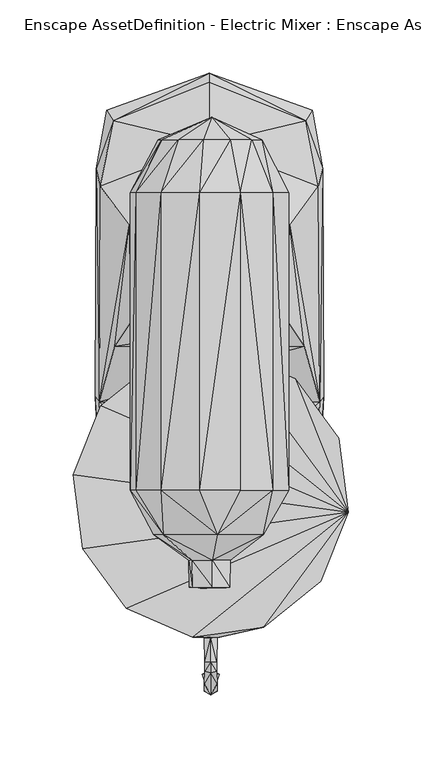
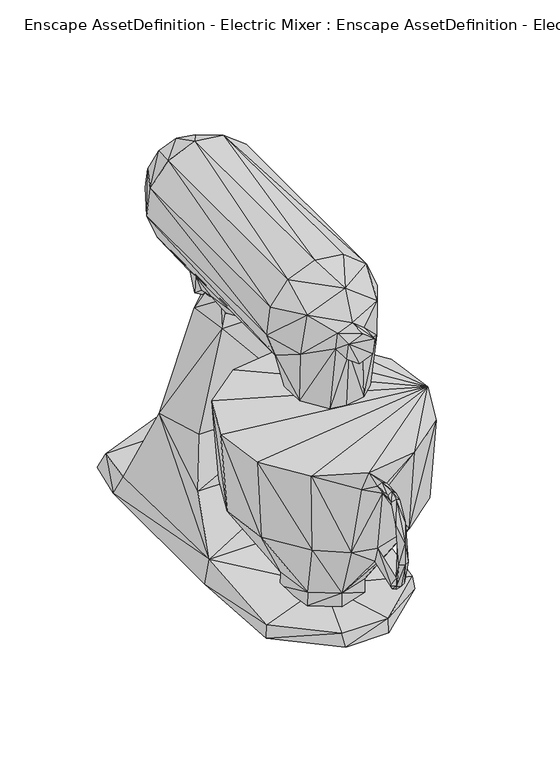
"""IFC4 building model written with IfcOpenShell, lengths in millimetres: geographic element geometry, Enscape AssetDefinition - Electric Mixer : Enscape AssetDefinition - Electric Mixer."""

from ifc_helpers import new_model, si_unit, origin, place, context, project, spatial, faceted_brep, source, transform, mapped, element, save


def enscape_assetdefinition_electric_mixer_enscape_94847bc3(model_context):
    return source(origin(), model_context, "Body", "Brep", [
        faceted_brep([(-33.1558138, -68.3929175, 35.9324776), (5.4905559, -47.8938743, 22.1070927), (-33.4696956, -68.4412047, 22.1070927), (5.4519237, -47.7779806, 35.9324776), (37.8109515, -77.823922, 22.1070927), (-28.3413138, -105.4167449, 35.9324776), (-28.6117345, -105.3394824, 22.1070927), (-4.1142949, -120.8839789, 22.1070927), (37.4729261, -77.8046027, 35.9324776), (23.5702749, -112.2063026, 22.1070927), (-4.0660053, -121.0143641, 35.9324776), (-81.1752379, -118.6867878, 119.6139604), (-53.3119924, -156.3383937, 118.9958528), (-87.177664, -71.1695775, 119.6139604), (-92.7503183, -69.8367804, 199.6061057), (-86.3615647, -120.3576177, 199.6061057), (-23.3722869, -170.4873145, 114.693217), (-56.5908775, -160.8051956, 199.557811), (94.5756733, -95.5269784, 199.6061057), (-74.0379989, -22.7590073, 199.6061057), (-69.5808455, -26.8877894, 119.6139604), (-35.2419317, 8.262394, 199.6061057), (-33.0930352, 2.288939, 119.6139604), (13.2410768, 14.9167348, 199.6061057), (55.002138, -9.7931819, 119.6139604), (83.0006003, -47.8117839, 119.6139604), (58.4210604, -4.5827068, 199.6061057), (88.1917551, -45.0061411, 199.6061057), (89.007847, -95.3289941, 119.6139604), (23.3626291, -112.307705, 35.9324776), (71.4062005, -139.6107823, 119.6139604), (75.8633539, -142.6095814, 199.6061057), (35.6041044, -166.9476777, 116.5378988), (4.3267705, -174.5581478, 100.8726731), (37.0672904, -173.722744, 199.3598044), (0.9126781, -182.125181, 174.833402), (0.9126781, -173.8241464, 112.6891971), (5.4470953, -180.9613854, 182.9026341), (-11.41572, -180.4688275, 199.1135478), (0.9126781, -201.5038878, 174.6354103), (4.8869327, -197.346136, 183.0137074), (0.9126781, -181.019336, 185.5102926), (0.9126781, -197.191596, 186.0125065), (5.0800922, -203.7976682, 179.7831208), (-3.0615765, -197.346136, 183.0137074), (-3.6217389, -180.9613854, 182.9026341), (-3.2499069, -203.7976682, 179.7831208), (0.9126781, -204.806909, 182.1831167), (5.4422664, -212.2145742, 162.0897204), (-3.61691, -212.2145742, 162.0897204), (0.9126781, -219.6512222, 144.9709535), (-16.9304218, -177.1657914, 181.2366396), (-2.5014144, -174.5581478, 100.8726731), (-2.9601678, -204.8407197, 91.0408497), (0.9126781, -205.0483674, 89.4231424), (0.9126781, -174.2684096, 99.2066637), (4.7855242, -204.8407197, 91.0408497), (4.6647997, -211.9972706, 98.197408), (0.9126781, -212.8858119, 97.415112), (-2.8394433, -211.9972706, 98.197408), (0.9126781, -204.7634572, 100.496009), (6.7074602, -205.9610337, 95.5269784), (-4.8772749, -205.9610337, 95.5269784), (-3.6410547, -217.309162, 123.1053099), (0.9126781, -219.6898311, 123.2598424), (5.4664114, -217.309162, 123.1053099), (0.9126781, -207.7381015, 141.7934895)], [[[0, 1, 2]], [[1, 0, 3]], [[3, 4, 1]], [[4, 2, 1]], [[5, 2, 6]], [[2, 5, 0]], [[2, 4, 7]], [[2, 7, 6]], [[4, 3, 8]], [[8, 9, 4]], [[7, 4, 9]], [[10, 6, 7]], [[9, 10, 7]], [[6, 10, 5]], [[11, 0, 5]], [[10, 12, 5]], [[11, 5, 12]], [[0, 11, 13]], [[14, 11, 15]], [[11, 14, 13]], [[12, 15, 11]], [[12, 10, 16]], [[16, 17, 12]], [[15, 12, 17]], [[18, 15, 17]], [[15, 18, 14]], [[19, 13, 14]], [[18, 19, 14]], [[13, 19, 20]], [[20, 0, 13]], [[21, 20, 19]], [[19, 18, 21]], [[20, 3, 0]], [[3, 20, 22]], [[20, 21, 22]], [[23, 22, 21]], [[18, 23, 21]], [[24, 22, 23]], [[3, 22, 24]], [[25, 3, 24]], [[3, 25, 8]], [[26, 25, 24]], [[24, 23, 26]], [[23, 18, 26]], [[25, 26, 27]], [[18, 27, 26]], [[27, 28, 25]], [[28, 8, 25]], [[9, 8, 29]], [[30, 8, 28]], [[8, 30, 29]], [[18, 30, 28]], [[28, 27, 18]], [[31, 32, 30]], [[30, 18, 31]], [[32, 29, 30]], [[10, 9, 29]], [[33, 29, 32]], [[29, 33, 10]], [[32, 31, 34]], [[34, 35, 32]], [[36, 33, 32]], [[32, 35, 36]], [[18, 34, 31]], [[35, 34, 37]], [[34, 38, 37]], [[18, 38, 34]], [[37, 39, 35]], [[39, 37, 40]], [[41, 40, 37]], [[38, 41, 37]], [[40, 41, 42]], [[42, 43, 40]], [[43, 39, 40]], [[41, 44, 42]], [[44, 41, 45]], [[41, 38, 45]], [[46, 42, 44]], [[42, 46, 47]], [[43, 42, 47]], [[48, 43, 47]], [[43, 48, 39]], [[46, 49, 47]], [[50, 47, 49]], [[47, 50, 48]], [[49, 46, 39]], [[39, 46, 44]], [[45, 39, 44]], [[39, 45, 35]], [[45, 51, 35]], [[51, 45, 38]], [[36, 35, 16]], [[16, 35, 51]], [[17, 16, 51]], [[51, 38, 17]], [[38, 18, 17]], [[10, 52, 16]], [[16, 52, 36]], [[53, 36, 52]], [[52, 54, 53]], [[54, 52, 55]], [[10, 55, 52]], [[55, 10, 33]], [[33, 54, 55]], [[36, 56, 33]], [[54, 33, 56]], [[57, 54, 56]], [[54, 57, 58]], [[59, 54, 58]], [[54, 59, 53]], [[56, 36, 60]], [[56, 61, 57]], [[61, 56, 60]], [[36, 53, 60]], [[62, 60, 53]], [[53, 59, 62]], [[60, 62, 59]], [[63, 60, 59]], [[64, 59, 58]], [[59, 64, 63]], [[57, 64, 58]], [[64, 57, 65]], [[64, 50, 63]], [[50, 64, 65]], [[60, 63, 66]], [[49, 63, 50]], [[63, 49, 66]], [[65, 48, 50]], [[57, 66, 65]], [[48, 65, 66]], [[66, 57, 60]], [[66, 39, 48]], [[39, 66, 49]], [[61, 60, 57]]]),
        faceted_brep([(53.0608855, 35.1984724, 122.453399), (-25.777122, 43.3497988, 217.2608823), (-53.0608855, 35.1984724, 122.453399), (25.777122, 43.3497988, 217.2608823), (-54.7800064, 100.2883688, 105.3201631), (-31.3014798, 81.6871151, 217.5747454), (-20.7549781, 46.8942709, 228.5462022), (-18.5529608, 58.6335361, 234.9929065), (-64.674601, 17.7272037, 78.2392099), (64.674601, 17.7272037, 78.2392099), (-75.1534924, -19.9292209, 34.9715091), (75.1534924, -19.9292209, 34.9715091), (54.7800064, 100.2883688, 105.3201631), (0.0, -83.7442577, 20.9143329), (-71.0488558, -110.48235, 20.6487402), (-77.7466595, -16.819356, 7.745692), (-74.2794499, 126.7318875, 30.7509769), (-77.196151, 138.5580599, 7.5090714), (-22.725204, -153.4554809, 20.6922013), (-72.5844726, -112.138696, 8.2334196), (0.0, -4.9835127, 7.8760749), (-65.6548813, 171.3661849, 24.4250074), (-70.0057968, 178.7207276, 7.3690312), (0.0, 155.7396054, 37.8930457), (0.0, 197.7807283, 23.4350655), (0.0, 203.6720961, 8.4169209), (65.6548813, 171.3661849, 24.4250074), (70.0057968, 178.7207276, 7.3690312), (77.196151, 138.5580599, 7.5090714), (74.2794499, 126.7318875, 30.7509769), (77.7466595, -16.819356, 7.745692), (71.0488558, -110.48235, 20.6487402), (72.5844726, -112.138696, 8.2334196), (21.2089028, -157.2993547, 8.1368405), (-21.2089028, -157.2993547, 8.1368405), (22.725204, -153.4554809, 20.6922013), (0.0, 124.124229, 108.2272083), (-14.5690478, 97.7821127, 217.2077596), (14.5690478, 97.7821127, 217.2077596), (31.3014798, 81.6871151, 217.5747454), (-18.5529608, 79.8134655, 234.9929065), (-14.5690478, 92.2819078, 228.5606861), (14.5690478, 92.2819078, 228.5606861), (18.5529608, 79.8134655, 234.9929065), (18.5529608, 58.6335361, 234.9929065), (20.7549781, 46.8942709, 228.5462022)], [[[0, 1, 2]], [[1, 0, 3]], [[1, 4, 2]], [[4, 1, 5]], [[3, 6, 1]], [[7, 5, 1]], [[6, 7, 1]], [[8, 0, 2]], [[4, 8, 2]], [[0, 8, 9]], [[10, 9, 8]], [[4, 10, 8]], [[9, 10, 11]], [[11, 12, 9]], [[0, 9, 12]], [[10, 13, 11]], [[10, 14, 13]], [[15, 14, 10]], [[10, 4, 16]], [[10, 17, 15]], [[17, 10, 16]], [[14, 18, 13]], [[19, 18, 14]], [[14, 15, 19]], [[20, 15, 17]], [[19, 15, 20]], [[17, 21, 22]], [[21, 17, 16]], [[20, 17, 22]], [[4, 23, 16]], [[23, 21, 16]], [[21, 23, 24]], [[21, 25, 22]], [[25, 21, 24]], [[25, 20, 22]], [[26, 25, 24]], [[25, 26, 27]], [[20, 25, 27]], [[23, 26, 24]], [[28, 26, 29]], [[26, 28, 27]], [[26, 23, 29]], [[28, 20, 27]], [[11, 28, 29]], [[28, 11, 30]], [[30, 20, 28]], [[12, 11, 29]], [[23, 12, 29]], [[31, 11, 13]], [[31, 30, 11]], [[30, 31, 32]], [[32, 20, 30]], [[33, 20, 32]], [[34, 20, 33]], [[19, 20, 34]], [[35, 32, 31]], [[32, 35, 33]], [[35, 31, 13]], [[18, 35, 13]], [[35, 34, 33]], [[34, 35, 18]], [[18, 19, 34]], [[23, 4, 36]], [[12, 23, 36]], [[5, 36, 4]], [[36, 37, 38]], [[36, 5, 37]], [[36, 39, 12]], [[39, 36, 38]], [[40, 37, 5]], [[5, 7, 40]], [[41, 38, 37]], [[37, 40, 41]], [[38, 41, 42]], [[43, 38, 42]], [[38, 43, 39]], [[40, 42, 41]], [[42, 40, 43]], [[7, 43, 40]], [[43, 7, 44]], [[6, 44, 7]], [[44, 39, 43]], [[44, 6, 45]], [[39, 44, 3]], [[3, 44, 45]], [[6, 3, 45]], [[3, 12, 39]], [[12, 3, 0]]]),
        faceted_brep([(-13.9654251, -128.2481849, 296.6493666), (-33.213757, -100.8098945, 232.6218784), (-16.8338418, -123.2067198, 232.6218784), (-38.124837, -110.7624322, 288.5560095), (-45.4938672, -80.1370069, 271.6062665), (-33.802893, -75.1196891, 232.6218784), (35.9662808, -90.8573568, 232.6218784), (-1.8205274, -128.8614571, 288.1068885), (-2.4144927, -125.848189, 232.6218784), (16.7952087, -122.5596443, 232.6218784), (11.8020391, -128.4123659, 293.2980657), (-13.6225661, -146.6224641, 296.7990935), (-1.7770665, -147.2164392, 288.4497643), (36.1739285, -110.7576042, 282.2879851), (29.9928263, -110.723801, 232.6218784), (14.1102942, -128.1274557, 308.2872331), (11.5123, -146.7818171, 293.5202122), (-11.8165268, -146.5065777, 311.5226328), (-12.1110948, -128.1274557, 311.7399514), (1.9460809, -146.5065777, 317.2208369), (13.7626072, -146.5065777, 308.15202), (1.9943707, -128.1274557, 317.5830245), (36.7582329, -110.7624322, 317.6602721), (-31.5622464, -110.7624322, 326.6566992), (5.1959879, -110.7624322, 341.8824971), (-53.968735, -80.5329829, 295.3310609), (-50.2890497, -80.5329829, 323.2715726), (-33.1364982, -80.5329829, 345.6249535), (-54.0363416, 122.3857924, 295.3262329), (-50.3566526, 122.3857924, 323.2957125), (-33.1799574, 122.3857924, 345.6780612), (-7.1034371, -80.5329829, 356.4032316), (-7.1130954, 122.3857924, 356.4756811), (-21.1364683, 158.5983634, 329.3947279), (-4.1191243, 158.5983634, 336.4402354), (-32.3445424, 158.5983634, 314.78706), (1.4969853, 173.7661958, 298.7934351), (14.1344387, 158.5983634, 334.0353966), (20.8612159, 122.3857924, 352.7911603), (20.8322406, -80.5329829, 352.7283669), (43.185614, -80.5329829, 335.570991), (43.2435609, 122.3857924, 335.6144428), (28.7469495, 158.5983634, 322.8273094), (35.7924365, 158.5983634, 305.8148026), (53.968735, -80.5329829, 309.5379472), (54.0411696, 122.3857924, 309.5476031), (50.7526323, -80.4557204, 282.0658386), (50.3663123, 122.3761365, 281.5877795), (33.3924331, 158.5935205, 287.561208), (25.9413067, 158.5645527, 275.8557796), (42.4998961, -79.9003839, 267.3133016), (38.9457643, 122.3326772, 263.6480927), (31.0214013, -64.0902892, 255.3229332), (29.0415175, -67.2339574, 232.6218784), (-22.1698713, -60.5603009, 232.6218784), (13.7529494, -55.8182374, 232.6218784), (10.527187, -50.2600744, 247.3357916), (-20.9819395, -54.8669249, 250.3973544), (-32.4894115, -65.9397915, 256.1100423), (0.0, 16.7517476, 242.9365665), (-24.6278234, 19.1131234, 244.2355901), (24.6326532, 19.1131234, 244.2355901), (0.0, 47.6089641, 227.7349383), (-20.1368667, 48.4057479, 228.5365611), (-21.5082988, 68.9627379, 233.3075851), (-25.4970416, 88.457346, 244.250074), (-43.2966799, 122.3519966, 269.302845), (-21.102665, 122.2071201, 251.7977655), (-25.5887918, 97.7627933, 243.149057), (-27.7376901, 158.5742235, 279.5450985), (-34.7493775, 158.5983634, 296.5286672), (-13.2555645, 158.4824622, 268.1197226), (0.5215304, 158.5307568, 265.2754784), (14.2937955, 158.4824622, 268.1197226), (0.0, 122.2795546, 247.437194), (21.107493, 122.2071201, 251.7977655), (0.0, 105.6147292, 241.7583168), (25.5936198, 97.7627933, 243.149057), (0.0, 98.516129, 217.1401531), (22.5803331, 95.5076665, 221.8146026), (25.4970416, 88.457346, 244.250074), (21.5082988, 68.9627379, 233.3075851), (22.334056, 91.4175138, 226.4456004), (-22.5755051, 95.5076665, 221.8146026), (-22.0298301, 85.8255476, 230.1204503), (20.1416966, 48.4057479, 228.5365611)], [[[0, 1, 2]], [[1, 0, 3]], [[1, 4, 5]], [[4, 1, 3]], [[6, 2, 1]], [[6, 1, 5]], [[2, 7, 0]], [[7, 2, 8]], [[6, 8, 2]], [[9, 7, 8]], [[7, 9, 10]], [[11, 7, 12]], [[7, 11, 0]], [[10, 12, 7]], [[6, 9, 8]], [[13, 9, 14]], [[9, 13, 10]], [[6, 14, 9]], [[13, 15, 10]], [[12, 10, 16]], [[15, 16, 10]], [[17, 11, 12]], [[17, 12, 16]], [[17, 0, 11]], [[0, 17, 18]], [[19, 18, 17]], [[17, 16, 20]], [[17, 20, 19]], [[16, 15, 20]], [[20, 21, 19]], [[21, 20, 15]], [[15, 13, 22]], [[22, 21, 15]], [[21, 23, 18]], [[23, 21, 24]], [[21, 22, 24]], [[18, 19, 21]], [[18, 3, 0]], [[3, 18, 23]], [[23, 25, 3]], [[25, 23, 26]], [[26, 23, 27]], [[24, 27, 23]], [[4, 3, 25]], [[28, 4, 25]], [[25, 29, 28]], [[29, 25, 26]], [[26, 30, 29]], [[30, 26, 27]], [[27, 24, 31]], [[27, 32, 30]], [[32, 27, 31]], [[33, 29, 30]], [[34, 30, 32]], [[30, 34, 33]], [[35, 28, 29]], [[29, 33, 35]], [[36, 35, 33]], [[36, 33, 34]], [[32, 37, 34]], [[36, 34, 37]], [[31, 38, 32]], [[37, 32, 38]], [[24, 39, 31]], [[38, 31, 39]], [[40, 38, 39]], [[38, 40, 41]], [[42, 38, 41]], [[38, 42, 37]], [[36, 37, 42]], [[41, 43, 42]], [[36, 42, 43]], [[44, 41, 40]], [[41, 44, 45]], [[43, 41, 45]], [[22, 44, 40]], [[40, 24, 22]], [[24, 40, 39]], [[22, 46, 44]], [[46, 45, 44]], [[45, 46, 47]], [[48, 45, 47]], [[45, 48, 43]], [[36, 43, 48]], [[47, 49, 48]], [[36, 48, 49]], [[50, 47, 46]], [[47, 50, 51]], [[49, 47, 51]], [[13, 50, 46]], [[46, 22, 13]], [[13, 6, 50]], [[6, 52, 50]], [[51, 50, 52]], [[6, 13, 14]], [[52, 6, 53]], [[6, 54, 55]], [[6, 5, 54]], [[6, 55, 53]], [[56, 53, 55]], [[53, 56, 52]], [[55, 57, 56]], [[57, 55, 54]], [[5, 57, 54]], [[5, 4, 58]], [[57, 5, 58]], [[59, 56, 57]], [[59, 57, 60]], [[60, 57, 58]], [[61, 52, 56]], [[61, 56, 59]], [[62, 61, 59]], [[59, 63, 62]], [[63, 59, 60]], [[60, 64, 63]], [[64, 60, 65]], [[60, 66, 65]], [[66, 60, 58]], [[66, 58, 4]], [[4, 28, 66]], [[66, 67, 68]], [[68, 65, 66]], [[69, 67, 66]], [[70, 66, 28]], [[66, 70, 69]], [[28, 35, 70]], [[36, 69, 70]], [[36, 70, 35]], [[67, 69, 71]], [[36, 71, 69]], [[36, 72, 71]], [[36, 73, 72]], [[36, 49, 73]], [[71, 74, 67]], [[74, 71, 72]], [[72, 75, 74]], [[75, 72, 73]], [[73, 51, 75]], [[51, 73, 49]], [[75, 76, 74]], [[76, 75, 77]], [[77, 75, 51]], [[76, 67, 74]], [[78, 68, 76]], [[77, 78, 76]], [[67, 76, 68]], [[78, 77, 79]], [[80, 79, 77]], [[51, 80, 77]], [[52, 80, 51]], [[80, 52, 61]], [[61, 81, 80]], [[82, 80, 81]], [[79, 80, 82]], [[82, 78, 79]], [[81, 64, 82]], [[78, 82, 64]], [[68, 78, 83]], [[64, 83, 78]], [[83, 65, 68]], [[65, 83, 84]], [[83, 64, 84]], [[64, 62, 63]], [[81, 62, 64]], [[64, 65, 84]], [[81, 61, 85]], [[62, 81, 85]], [[61, 62, 85]]]),
    ])


if __name__ == "__main__":
    model = new_model("IFC4")
    model_context = context("Model", 3, world=origin())
    ifc_project = project(units=[si_unit("LENGTHUNIT", "METRE", prefix="MILLI")], contexts=[model_context])
    site = spatial("IfcSite", under=ifc_project)
    building = spatial("IfcBuilding", under=site)
    placement = place(None, origin())
    enscape_assetdefinition_electric_mixer_enscape_shape = enscape_assetdefinition_electric_mixer_enscape_94847bc3(model_context)
    element("IfcGeographicElement", 1, ObjectType="Enscape AssetDefinition - Electric Mixer : Enscape AssetDefinition - Electric Mixer", at=placement, inside=building, context=model_context, shape_type="MappedRepresentation", body=[
        mapped(enscape_assetdefinition_electric_mixer_enscape_shape, transform((0.0, 0.0, 0.0), x_axis=(1.0, 0.0, 0.0), y_axis=(0.0, 1.0, 0.0), z_axis=(0.0, 0.0, 1.0))),
    ])
    save(model, "model.ifc")
